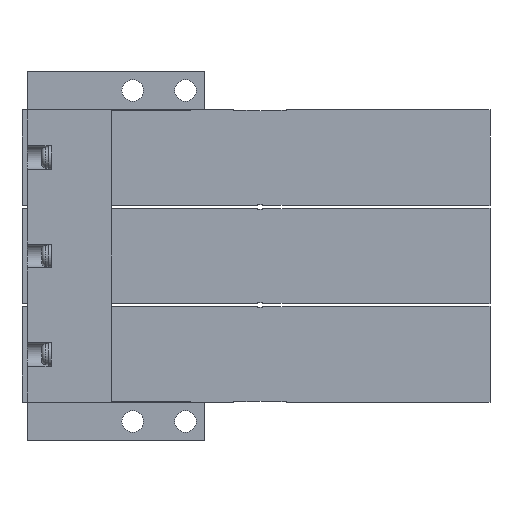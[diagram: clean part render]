
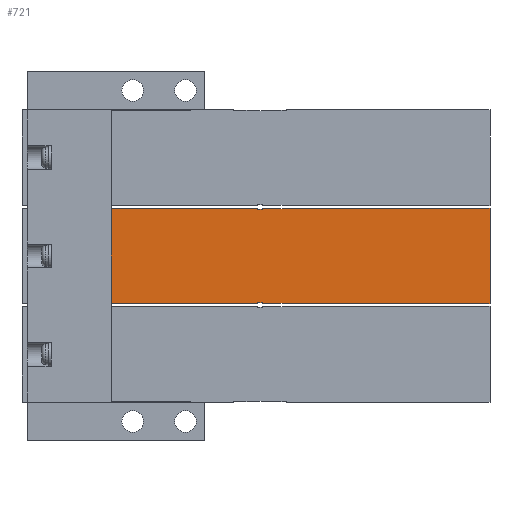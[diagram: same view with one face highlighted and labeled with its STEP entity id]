
A CAD part, front view. The second image highlights one B-rep face of the part: STEP entity #721.
In plain terms, the highlighted planar face has unit normal (0, -1, 0).
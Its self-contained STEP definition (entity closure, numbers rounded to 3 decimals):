
#721=ADVANCED_FACE('',(#1549),#1550,.F.);
#1549=FACE_OUTER_BOUND('',#2564,.T.);
#1550=PLANE('',#2565);
#2564=EDGE_LOOP('',(#5491,#5492,#5493,#5494,#5495,#5496,#5497,#5498,#5499,#5500,#5501,#5502,#5503,#5504,#5505,#5506,#5507,#5508,#5509,#5510,#5511,#5512,#5513,#5514));
#2565=AXIS2_PLACEMENT_3D('',#5515,#5516,#5517);
#5491=ORIENTED_EDGE('',*,*,#7113,.F.);
#5492=ORIENTED_EDGE('',*,*,#7295,.T.);
#5493=ORIENTED_EDGE('',*,*,#7308,.T.);
#5494=ORIENTED_EDGE('',*,*,#7309,.F.);
#5495=ORIENTED_EDGE('',*,*,#7310,.F.);
#5496=ORIENTED_EDGE('',*,*,#7301,.T.);
#5497=ORIENTED_EDGE('',*,*,#7311,.F.);
#5498=ORIENTED_EDGE('',*,*,#7207,.T.);
#5499=ORIENTED_EDGE('',*,*,#7312,.F.);
#5500=ORIENTED_EDGE('',*,*,#7143,.T.);
#5501=ORIENTED_EDGE('',*,*,#7313,.T.);
#5502=ORIENTED_EDGE('',*,*,#7094,.T.);
#5503=ORIENTED_EDGE('',*,*,#7314,.T.);
#5504=ORIENTED_EDGE('',*,*,#7250,.F.);
#5505=ORIENTED_EDGE('',*,*,#7315,.T.);
#5506=ORIENTED_EDGE('',*,*,#7316,.F.);
#5507=ORIENTED_EDGE('',*,*,#7213,.T.);
#5508=ORIENTED_EDGE('',*,*,#7293,.T.);
#5509=ORIENTED_EDGE('',*,*,#7256,.T.);
#5510=ORIENTED_EDGE('',*,*,#7317,.T.);
#5511=ORIENTED_EDGE('',*,*,#7318,.T.);
#5512=ORIENTED_EDGE('',*,*,#7091,.F.);
#5513=ORIENTED_EDGE('',*,*,#7274,.F.);
#5514=ORIENTED_EDGE('',*,*,#7319,.F.);
#5515=CARTESIAN_POINT('',(18.6,0.0,10.0));
#5516=DIRECTION('',(-0.0,1.0,0.0));
#5517=DIRECTION('',(1.0,0.0,0.0));
#7091=EDGE_CURVE('',#8668,#8663,#8670,.T.);
#7094=EDGE_CURVE('',#8676,#8674,#8677,.T.);
#7113=EDGE_CURVE('',#8710,#8713,#8714,.T.);
#7143=EDGE_CURVE('',#8771,#8769,#8772,.T.);
#7207=EDGE_CURVE('',#8881,#8879,#8882,.T.);
#7213=EDGE_CURVE('',#8887,#8889,#8891,.T.);
#7250=EDGE_CURVE('',#8951,#8953,#8954,.T.);
#7256=EDGE_CURVE('',#8962,#8963,#8964,.T.);
#7274=EDGE_CURVE('',#8991,#8668,#8994,.T.);
#7293=EDGE_CURVE('',#8889,#8962,#9022,.T.);
#7295=EDGE_CURVE('',#8710,#9023,#9025,.T.);
#7301=EDGE_CURVE('',#9032,#9030,#9033,.T.);
#7308=EDGE_CURVE('',#9023,#9043,#9044,.T.);
#7309=EDGE_CURVE('',#9045,#9043,#9046,.T.);
#7310=EDGE_CURVE('',#9032,#9045,#9047,.T.);
#7311=EDGE_CURVE('',#8881,#9030,#9048,.T.);
#7312=EDGE_CURVE('',#8771,#8879,#9049,.T.);
#7313=EDGE_CURVE('',#8769,#8676,#9050,.T.);
#7314=EDGE_CURVE('',#8674,#8953,#9051,.T.);
#7315=EDGE_CURVE('',#8951,#9052,#9053,.T.);
#7316=EDGE_CURVE('',#8887,#9052,#9054,.T.);
#7317=EDGE_CURVE('',#8963,#9055,#9056,.T.);
#7318=EDGE_CURVE('',#9055,#8663,#9057,.T.);
#7319=EDGE_CURVE('',#8713,#8991,#9058,.T.);
#8663=VERTEX_POINT('',#11198);
#8668=VERTEX_POINT('',#11205);
#8670=LINE('',#11208,#11209);
#8674=VERTEX_POINT('',#11213);
#8676=VERTEX_POINT('',#11216);
#8677=LINE('',#11217,#11218);
#8710=VERTEX_POINT('',#11268);
#8713=VERTEX_POINT('',#11272);
#8714=LINE('',#11273,#11274);
#8769=VERTEX_POINT('',#11349);
#8771=VERTEX_POINT('',#11352);
#8772=LINE('',#11353,#11354);
#8879=VERTEX_POINT('',#11518);
#8881=VERTEX_POINT('',#11521);
#8882=LINE('',#11522,#11523);
#8887=VERTEX_POINT('',#11531);
#8889=VERTEX_POINT('',#11534);
#8891=LINE('',#11537,#11538);
#8951=VERTEX_POINT('',#11644);
#8953=VERTEX_POINT('',#11647);
#8954=LINE('',#11648,#11649);
#8962=VERTEX_POINT('',#11662);
#8963=VERTEX_POINT('',#11663);
#8964=LINE('',#11664,#11665);
#8991=VERTEX_POINT('',#11731);
#8994=LINE('',#11735,#11736);
#9022=LINE('',#11782,#11783);
#9023=VERTEX_POINT('',#11784);
#9025=LINE('',#11787,#11788);
#9030=VERTEX_POINT('',#11796);
#9032=VERTEX_POINT('',#11799);
#9033=LINE('',#11800,#11801);
#9043=VERTEX_POINT('',#11816);
#9044=LINE('',#11817,#11818);
#9045=VERTEX_POINT('',#11819);
#9046=LINE('',#11820,#11821);
#9047=LINE('',#11822,#11823);
#9048=LINE('',#11824,#11825);
#9049=LINE('',#11826,#11827);
#9050=LINE('',#11828,#11829);
#9051=LINE('',#11830,#11831);
#9052=VERTEX_POINT('',#11832);
#9053=LINE('',#11833,#11834);
#9054=LINE('',#11835,#11836);
#9055=VERTEX_POINT('',#11837);
#9056=LINE('',#11838,#11839);
#9057=LINE('',#11840,#11841);
#9058=LINE('',#11842,#11843);
#11198=CARTESIAN_POINT('',(97.6,0.0,-10.0));
#11205=CARTESIAN_POINT('',(97.6,0.0,10.0));
#11208=CARTESIAN_POINT('',(97.6,0.0,10.0));
#11209=VECTOR('',#13241,1.0);
#11213=CARTESIAN_POINT('',(35.1,0.0,-10.0));
#11216=CARTESIAN_POINT('',(35.1,0.0,-9.9));
#11217=CARTESIAN_POINT('',(35.1,0.0,-9.9));
#11218=VECTOR('',#13246,1.0);
#11268=CARTESIAN_POINT('',(50.1,0.0,9.9));
#11272=CARTESIAN_POINT('',(55.1,0.0,9.9));
#11273=CARTESIAN_POINT('',(44.1,0.0,9.9));
#11274=VECTOR('',#13265,1.0);
#11349=CARTESIAN_POINT('',(18.6,0.0,-9.9));
#11352=CARTESIAN_POINT('',(18.6,0.0,9.9));
#11353=CARTESIAN_POINT('',(18.6,0.0,10.0));
#11354=VECTOR('',#13311,1.0);
#11518=CARTESIAN_POINT('',(35.1,0.0,9.9));
#11521=CARTESIAN_POINT('',(35.1,0.0,10.0));
#11522=CARTESIAN_POINT('',(35.1,0.0,10.1));
#11523=VECTOR('',#13382,1.0);
#11531=CARTESIAN_POINT('',(49.1,0.0,-9.8));
#11534=CARTESIAN_POINT('',(50.1,0.0,-9.8));
#11537=CARTESIAN_POINT('',(18.6,0.0,-9.8));
#11538=VECTOR('',#13388,1.0);
#11644=CARTESIAN_POINT('',(44.1,0.0,-9.9));
#11647=CARTESIAN_POINT('',(44.1,0.0,-10.0));
#11648=CARTESIAN_POINT('',(44.1,0.0,-9.9));
#11649=VECTOR('',#13446,1.0);
#11662=CARTESIAN_POINT('',(50.1,0.0,-9.9));
#11663=CARTESIAN_POINT('',(55.1,0.0,-9.9));
#11664=CARTESIAN_POINT('',(44.1,0.0,-9.9));
#11665=VECTOR('',#13452,1.0);
#11731=CARTESIAN_POINT('',(55.1,0.0,10.0));
#11735=CARTESIAN_POINT('',(18.6,0.0,10.0));
#11736=VECTOR('',#13475,1.0);
#11782=CARTESIAN_POINT('',(50.1,0.0,10.0));
#11783=VECTOR('',#13494,1.0);
#11784=CARTESIAN_POINT('',(50.1,0.0,9.8));
#11787=CARTESIAN_POINT('',(50.1,0.0,10.0));
#11788=VECTOR('',#13496,1.0);
#11796=CARTESIAN_POINT('',(44.1,0.0,10.0));
#11799=CARTESIAN_POINT('',(44.1,0.0,9.9));
#11800=CARTESIAN_POINT('',(44.1,0.0,9.9));
#11801=VECTOR('',#13504,1.0);
#11816=CARTESIAN_POINT('',(49.1,0.0,9.8));
#11817=CARTESIAN_POINT('',(18.6,0.0,9.8));
#11818=VECTOR('',#13513,1.0);
#11819=CARTESIAN_POINT('',(49.1,0.0,9.9));
#11820=CARTESIAN_POINT('',(49.1,0.0,10.0));
#11821=VECTOR('',#13514,1.0);
#11822=CARTESIAN_POINT('',(44.1,0.0,9.9));
#11823=VECTOR('',#13515,1.0);
#11824=CARTESIAN_POINT('',(18.6,0.0,10.0));
#11825=VECTOR('',#13516,1.0);
#11826=CARTESIAN_POINT('',(18.6,0.0,9.9));
#11827=VECTOR('',#13517,1.0);
#11828=CARTESIAN_POINT('',(18.6,0.0,-9.9));
#11829=VECTOR('',#13518,1.0);
#11830=CARTESIAN_POINT('',(18.6,0.0,-10.0));
#11831=VECTOR('',#13519,1.0);
#11832=CARTESIAN_POINT('',(49.1,0.0,-9.9));
#11833=CARTESIAN_POINT('',(44.1,0.0,-9.9));
#11834=VECTOR('',#13520,1.0);
#11835=CARTESIAN_POINT('',(49.1,0.0,10.0));
#11836=VECTOR('',#13521,1.0);
#11837=CARTESIAN_POINT('',(55.1,0.0,-10.0));
#11838=CARTESIAN_POINT('',(55.1,0.0,-9.9));
#11839=VECTOR('',#13522,1.0);
#11840=CARTESIAN_POINT('',(18.6,0.0,-10.0));
#11841=VECTOR('',#13523,1.0);
#11842=CARTESIAN_POINT('',(55.1,0.0,9.9));
#11843=VECTOR('',#13524,1.0);
#13241=DIRECTION('',(0.0,0.0,-1.0));
#13246=DIRECTION('',(0.0,0.0,-1.0));
#13265=DIRECTION('',(1.0,0.0,0.0));
#13311=DIRECTION('',(0.0,0.0,-1.0));
#13382=DIRECTION('',(0.0,0.0,-1.0));
#13388=DIRECTION('',(1.0,0.0,0.0));
#13446=DIRECTION('',(0.0,0.0,-1.0));
#13452=DIRECTION('',(1.0,0.0,0.0));
#13475=DIRECTION('',(1.0,0.0,0.0));
#13494=DIRECTION('',(0.0,0.0,-1.0));
#13496=DIRECTION('',(0.0,0.0,-1.0));
#13504=DIRECTION('',(0.0,0.0,1.0));
#13513=DIRECTION('',(-1.0,0.0,0.0));
#13514=DIRECTION('',(0.0,0.0,-1.0));
#13515=DIRECTION('',(1.0,0.0,0.0));
#13516=DIRECTION('',(1.0,0.0,0.0));
#13517=DIRECTION('',(1.0,0.0,0.0));
#13518=DIRECTION('',(1.0,0.0,0.0));
#13519=DIRECTION('',(1.0,0.0,0.0));
#13520=DIRECTION('',(1.0,0.0,0.0));
#13521=DIRECTION('',(0.0,0.0,-1.0));
#13522=DIRECTION('',(0.0,0.0,-1.0));
#13523=DIRECTION('',(1.0,0.0,0.0));
#13524=DIRECTION('',(0.0,0.0,1.0));
